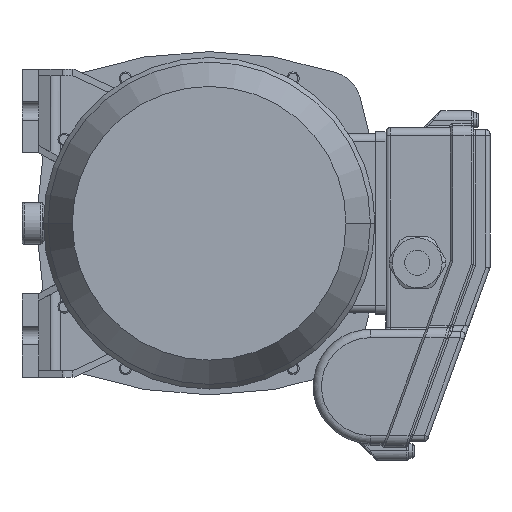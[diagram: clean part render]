
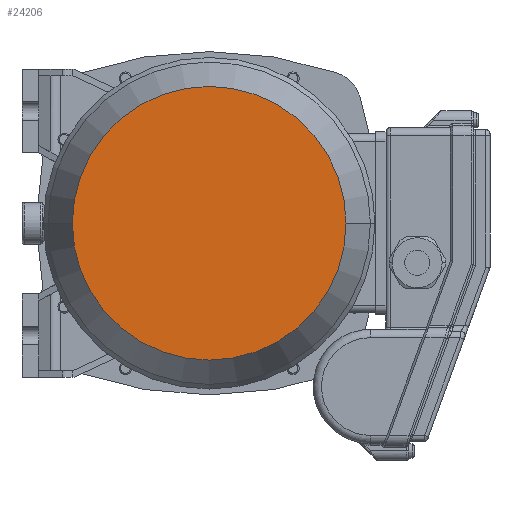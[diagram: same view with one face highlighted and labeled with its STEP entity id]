
A CAD part, front view. The second image highlights one B-rep face of the part: STEP entity #24206.
In plain terms, the highlighted planar face has unit normal (0, -1, 0) as drawn and (1, 0, 0) by its records, which use the part's own axes.
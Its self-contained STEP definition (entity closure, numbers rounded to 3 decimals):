
#18299=CARTESIAN_POINT('',(203.,0.,0.));
#18300=DIRECTION('',(-1.,0.,0.));
#18301=DIRECTION('',(0.,1.,0.));
#18302=AXIS2_PLACEMENT_3D('',#18299,#18300,#18301);
#18307=CARTESIAN_POINT('',(203.,0.,0.));
#18308=DIRECTION('',(1.,0.,0.));
#18309=DIRECTION('',(0.,1.,0.));
#18310=AXIS2_PLACEMENT_3D('',#18307,#18308,#18309);
#19615=CARTESIAN_POINT('',(203.,65.794,0.));
#19617=VERTEX_POINT('',#19615);
#19625=CARTESIAN_POINT('',(203.,-65.794,0.));
#19627=VERTEX_POINT('',#19625);
#24197=CARTESIAN_POINT('',(203.,0.,0.));
#24198=DIRECTION('',(1.,0.,0.));
#24199=DIRECTION('',(0.,-1.,0.));
#24200=AXIS2_PLACEMENT_3D('',#24197,#24198,#24199);
#24201=PLANE('',#24200);
#24202=ORIENTED_EDGE('',*,*,#24179,.T.);
#24203=ORIENTED_EDGE('',*,*,#24190,.F.);
#24204=EDGE_LOOP('',(#24202,#24203));
#24205=FACE_OUTER_BOUND('',#24204,.F.);
#18303=CIRCLE('',#18302,65.794);
#18311=CIRCLE('',#18310,65.794);
#24179=EDGE_CURVE('',#19617,#19627,#18303,.T.);
#24190=EDGE_CURVE('',#19617,#19627,#18311,.T.);
#24206=ADVANCED_FACE('',(#24205),#24201,.T.);
